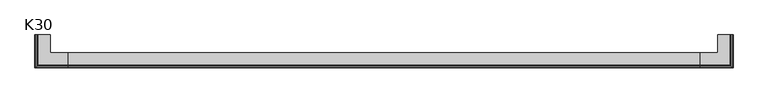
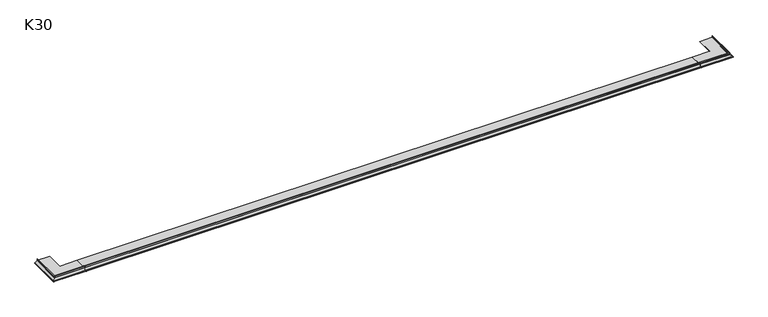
"""IFC4 building model written with IfcOpenShell, lengths in millimetres: proxy geometry, K30 Profil okapowy prosty : K30."""

from ifc_helpers import new_model, si_unit, frame, origin, place, context, project, spatial, polyline, circle_curve, ellipse_curve, source, transform, mapped, element, save
from ifc_brep_helpers import plane_surface, cylinder_surface, revolved_surface, advanced_brep


def k30_aa9466e5(model_context):
    return source(origin(), model_context, "Body", "AdvancedBrep", [
        advanced_brep(
        [(4800.0, 91.6460788, -13.5016844), (4800.0, 91.6460788, -15.1970829), (4800.0, 5.0074458, -15.1970829), (4800.0, 5.0074458, -19.1975491), (4800.0, 4.0074458, -19.1975491), (4800.0, 4.0074458, -15.1975491), (4800.0, -2.7771023, -15.1975491), (4800.0, -16.2971103, -25.3819245), (4800.0, -17.0937577, -26.9794046), (4800.0, -17.0937577, -30.413733), (4800.0, -18.7937577, -30.413733), (4800.0, -18.7937577, -26.6303216), (4800.0, -17.5987866, -24.2341015), (4800.0, -3.2334641, -13.4129661), (4800.0, -2.800002, -12.5354797), (4800.0, -2.800002, -2.7535764), (4800.0, 0.0, 0.0), (4800.0, 0.0, -1.79984), (4800.0, -0.9925542, -2.7625682), (4800.0, -0.9925542, -13.5016844), (4928.3539212, 220.0, -13.5016844), (5020.9925542, 220.0, -13.5016844), (5020.9925542, 220.0, -2.7625682), (5020.0, 220.0, -1.79984), (5020.0, 220.0, 0.0), (5022.7996151, 220.0, -2.7535764), (5022.800002, 220.0, -12.5354797), (5023.2334641, 220.0, -13.4129661), (5037.5987866, 220.0, -24.2341015), (5038.7937577, 220.0, -26.6303216), (5038.7937577, 220.0, -30.413733), (5037.0937577, 220.0, -30.413733), (5037.0937577, 220.0, -26.9794046), (5036.2971103, 220.0, -25.3819245), (5022.7771023, 220.0, -15.1975491), (5015.9925542, 220.0, -15.1975491), (5015.9925542, 220.0, -19.1975491), (5014.9925542, 220.0, -19.1975491), (5014.9925542, 220.0, -15.1970829), (4928.3539212, 220.0, -15.1970829), (5020.9925542, -0.9925542, -13.5016844), (4928.3539212, 91.6460788, -13.5016844), (5020.9925542, -0.9925542, -2.7625682), (5020.0, 0.0, -1.79984), (5020.0, 0.0, 0.0), (5022.800002, -2.7996151, -2.7535764), (5022.800002, -2.800002, -12.5354797), (5023.2334641, -3.2334641, -13.4129661), (5037.5987866, -17.5987866, -24.2341015), (5038.7937577, -18.7937577, -26.6303216), (5038.7937577, -18.7937577, -30.413733), (5037.0937577, -17.0937577, -30.413733), (5037.0937577, -17.0937577, -26.9794046), (5036.2971103, -16.2971103, -25.3819245), (5022.7771023, -2.7771023, -15.1975491), (5015.9925542, 4.0074458, -15.1975491), (5015.9925542, 4.0074458, -19.1975491), (5014.9925542, 5.0074458, -19.1975491), (5014.9925542, 5.0074458, -15.1970829), (4928.3539212, 91.6460788, -15.1970829)],
        [
            (0, 1),
            (1, 2),
            (2, 3),
            (3, 4),
            (4, 5),
            (5, 6),
            (6, 7),
            (7, 8, circle_curve(frame((4800.0, -15.0937577, -26.9794046), z_axis=(1.0, 0.0, 0.0), x_axis=(0.0, -0.6016762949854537, 0.7987400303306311)), 2.0)),
            (8, 9),
            (9, 10, circle_curve(frame((4800.0, -17.9437577, -30.413733), z_axis=(-1.0, 0.0, 0.0), x_axis=(0.0, 1.0, -1.0699937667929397e-12)), 0.85)),
            (10, 11),
            (11, 12, circle_curve(frame((4800.0, -15.7937577, -26.6303216), z_axis=(-1.0, 0.0, 0.0), x_axis=(0.0, -1.0, 0.0)), 3.0)),
            (12, 13),
            (13, 14, circle_curve(frame((4800.0, -3.8882646, -12.5437023), z_axis=(1.0, 0.0, 0.0), x_axis=(0.0, 0.6016762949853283, -0.7987400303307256)), 1.0882937)),
            (14, 15),
            (15, 16, circle_curve(frame((4800.0, -0.0455531, -2.7536853), z_axis=(-1.0, 0.0, 0.0), x_axis=(0.0, -0.9999999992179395, 3.954897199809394e-05)), 2.754062)),
            (16, 17),
            (17, 18, circle_curve(frame((4800.0, -0.0049314, -2.7877721), z_axis=(1.0, 0.0, 0.0), x_axis=(0.0, 0.004991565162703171, 0.9999875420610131)), 0.9879444)),
            (18, 19),
            (19, 0),
            (20, 21),
            (21, 22),
            (22, 23, circle_curve(frame((5020.0049314, 220.0, -2.7877721), z_axis=(0.0, -1.0, 0.0), x_axis=(-0.004991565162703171, 0.0, 0.9999875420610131)), 0.9879444)),
            (23, 24),
            (24, 25, circle_curve(frame((5020.0455531, 220.0, -2.7536853), z_axis=(0.0, 1.0, 0.0), x_axis=(0.9999999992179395, 0.0, 3.954897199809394e-05)), 2.754062)),
            (25, 26),
            (26, 27, circle_curve(frame((5023.8882646, 220.0, -12.5437023), z_axis=(0.0, -1.0, 0.0), x_axis=(-0.6016762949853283, 0.0, -0.7987400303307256)), 1.0882937)),
            (27, 28),
            (28, 29, circle_curve(frame((5035.7937577, 220.0, -26.6303216), z_axis=(0.0, 1.0, 0.0), x_axis=(1.0, 0.0, 0.0)), 3.0)),
            (29, 30),
            (30, 31, circle_curve(frame((5037.9437577, 220.0, -30.413733), z_axis=(0.0, 1.0, 0.0), x_axis=(-1.0, 0.0, -1.0699937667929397e-12)), 0.85)),
            (31, 32),
            (32, 33, circle_curve(frame((5035.0937577, 220.0, -26.9794046), z_axis=(0.0, -1.0, 0.0), x_axis=(0.6016762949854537, 0.0, 0.7987400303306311)), 2.0)),
            (33, 34),
            (34, 35),
            (35, 36),
            (36, 37),
            (37, 38),
            (38, 39),
            (39, 20),
            (19, 40),
            (40, 21),
            (20, 41),
            (41, 0),
            (18, 42),
            (42, 40),
            (17, 43),
            (43, 42, ellipse_curve(frame((5020.0049314, -0.0049314, -2.7877721), z_axis=(0.7071067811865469, 0.7071067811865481, 0.0), x_axis=(0.7071067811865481, -0.7071067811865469, 0.0)), 1.3971644, 0.9879444)),
            (16, 44),
            (44, 43),
            (15, 45),
            (45, 44, ellipse_curve(frame((5020.0455531, -0.0455531, -2.7536853), z_axis=(-0.7071067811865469, -0.7071067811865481, 0.0), x_axis=(-0.7071067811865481, 0.7071067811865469, 0.0)), 3.8948319, 2.754062)),
            (14, 46),
            (46, 45),
            (13, 47),
            (47, 46, ellipse_curve(frame((5023.8882646, -3.8882646, -12.5437023), z_axis=(0.7071067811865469, 0.7071067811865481, 0.0), x_axis=(0.7071067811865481, -0.7071067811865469, 0.0)), 1.5390797, 1.0882937)),
            (12, 48),
            (48, 47),
            (11, 49),
            (49, 48, ellipse_curve(frame((5035.7937577, -15.7937577, -26.6303216), z_axis=(-0.7071067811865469, -0.7071067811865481, 0.0), x_axis=(-0.7071067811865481, 0.7071067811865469, 0.0)), 4.2426407, 3.0)),
            (10, 50),
            (50, 49),
            (9, 51),
            (51, 50, ellipse_curve(frame((5037.9437577, -17.9437577, -30.413733), z_axis=(-0.7071067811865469, -0.7071067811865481, 0.0), x_axis=(-0.7071067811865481, 0.7071067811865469, 0.0)), 1.2020815, 0.85)),
            (8, 52),
            (52, 51),
            (7, 53),
            (53, 52, ellipse_curve(frame((5035.0937577, -15.0937577, -26.9794046), z_axis=(0.7071067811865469, 0.7071067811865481, 0.0), x_axis=(0.7071067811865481, -0.7071067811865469, 0.0)), 2.8284271, 2.0)),
            (6, 54),
            (54, 53),
            (5, 55),
            (55, 35),
            (34, 54),
            (4, 56),
            (56, 55),
            (3, 57),
            (57, 37),
            (36, 56),
            (2, 58),
            (58, 57),
            (1, 59),
            (59, 39),
            (38, 58),
            (41, 59),
            (42, 22),
            (43, 23),
            (44, 24),
            (45, 25),
            (46, 26),
            (47, 27),
            (48, 28),
            (49, 29),
            (50, 30),
            (51, 31),
            (52, 32),
            (53, 33),
        ],
        [
            plane_surface(frame((4800.0, 0.0, 0.0), z_axis=(-1.0, 0.0, 0.0), x_axis=(0.0, 0.0, 1.0))),
            plane_surface(frame((5020.0, 220.0, 0.0), z_axis=(0.0, 1.0, 0.0), x_axis=(0.0, 0.0, 1.0))),
            plane_surface(frame((4800.0, 91.6460788, -13.5016844), z_axis=(0.0, 0.0, 1.0), x_axis=(1.0, 0.0, 0.0))),
            plane_surface(frame((4800.0, -0.9925542, -13.5016844), z_axis=(0.0, 1.0, 0.0), x_axis=(1.0, 0.0, 0.0))),
            revolved_surface(polyline([(5020.992875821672, -1.115027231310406e-08, -1.799840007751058), (4800.0, -1.115027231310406e-08, -1.799840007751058)]), (4800.0, -0.0049314, -2.7877721), (1.0, 0.0, 0.0)),
            plane_surface(frame((4800.0, 0.0, -1.79984), z_axis=(0.0, 1.0, 0.0), x_axis=(1.0, 0.0, 0.0))),
            cylinder_surface(frame((4800.0, -0.0455531, -2.7536853), z_axis=(-1.0000000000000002, 0.0, 0.0), x_axis=(0.0, -0.9999999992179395, 3.954897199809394e-05)), 2.754062),
            plane_surface(frame((4800.0, -2.800002, -2.7535764), z_axis=(0.0, -1.0, 0.0), x_axis=(1.0, 0.0, 0.0))),
            revolved_surface(polyline([(5024.976558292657, -3.2334640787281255, -13.412966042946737), (4800.0, -3.2334640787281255, -13.412966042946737)]), (4800.0, -3.8882646, -12.5437023), (1.0000000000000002, 0.0, 0.0)),
            plane_surface(frame((4800.0, -3.2334641, -13.4129661), z_axis=(0.0, -0.6016762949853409, 0.7987400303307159), x_axis=(1.0, 0.0, 0.0))),
            cylinder_surface(frame((4800.0, -15.7937577, -26.6303216), z_axis=(-1.0, 0.0, 0.0), x_axis=(0.0, -1.0, 0.0)), 3.0),
            plane_surface(frame((4800.0, -18.7937577, -26.6303216), z_axis=(0.0, -1.0, 0.0), x_axis=(1.0, 0.0, 0.0))),
            cylinder_surface(frame((4800.0, -17.9437577, -30.413733), z_axis=(-1.0, 0.0, 0.0), x_axis=(0.0, 1.0, -1.0699937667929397e-12)), 0.85),
            plane_surface(frame((4800.0, -17.0937577, -30.413733), z_axis=(0.0, 1.0, 0.0), x_axis=(1.0, 0.0, 0.0))),
            revolved_surface(polyline([(5037.0937577, -16.297110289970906, -25.381924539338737), (4800.0, -16.297110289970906, -25.381924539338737)]), (4800.0, -15.0937577, -26.9794046), (1.0000000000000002, 0.0, 0.0)),
            plane_surface(frame((4800.0, -16.2971103, -25.3819245), z_axis=(0.0, 0.6016762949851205, -0.798740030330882), x_axis=(1.0, 0.0, 0.0))),
            plane_surface(frame((4800.0, -2.7771023, -15.1975491), z_axis=(0.0, 0.0, -1.0), x_axis=(1.0, 0.0, 0.0))),
            plane_surface(frame((4800.0, 4.0074458, -15.1975491), z_axis=(0.0, -1.0, 0.0), x_axis=(1.0, 0.0, 0.0))),
            plane_surface(frame((4800.0, 4.0074458, -19.1975491), z_axis=(0.0, 0.0, -1.0), x_axis=(1.0, 0.0, 0.0))),
            plane_surface(frame((4800.0, 5.0074458, -19.1975491), z_axis=(0.0, 1.0, 0.0), x_axis=(1.0, 0.0, 0.0))),
            plane_surface(frame((4800.0, 5.0074458, -15.1970829), z_axis=(0.0, 0.0, -1.0), x_axis=(1.0, 0.0, 0.0))),
            plane_surface(frame((4800.0, 91.6460788, -15.1970829), z_axis=(0.0, 1.0, 0.0), x_axis=(1.0, 0.0, 0.0))),
            plane_surface(frame((5020.9925542, -0.9925542, -13.5016844), z_axis=(-1.0, 0.0, 0.0), x_axis=(0.0, 1.0, 0.0))),
            revolved_surface(polyline([(5020.00000001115, 220.0, -1.799840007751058), (5020.00000001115, -0.9928758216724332, -1.799840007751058)]), (5020.0049314, 0.0, -2.7877721), (0.0, 1.0, 0.0)),
            plane_surface(frame((5020.0, 0.0, -1.79984), z_axis=(-1.0, 0.0, 0.0), x_axis=(0.0, 1.0, 0.0))),
            cylinder_surface(frame((5020.0455531, 0.0, -2.7536853), z_axis=(0.0, -1.0000000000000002, 0.0), x_axis=(0.9999999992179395, 0.0, 3.954897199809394e-05)), 2.754062),
            plane_surface(frame((5022.800002, -2.800002, -2.7535764), z_axis=(1.0, 0.0, 0.0), x_axis=(0.0, 1.0, 0.0))),
            revolved_surface(polyline([(5023.2334640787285, 220.0000000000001, -13.412966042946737), (5023.2334640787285, -4.976558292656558, -13.412966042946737)]), (5023.8882646, 0.0, -12.5437023), (0.0, 1.0000000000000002, 0.0)),
            plane_surface(frame((5023.2334641, -3.2334641, -13.4129661), z_axis=(0.6016762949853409, 0.0, 0.7987400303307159), x_axis=(0.0, 1.0, 0.0))),
            cylinder_surface(frame((5035.7937577, 0.0, -26.6303216), z_axis=(0.0, -1.0, 0.0), x_axis=(1.0, 0.0, 0.0)), 3.0),
            plane_surface(frame((5038.7937577, -18.7937577, -26.6303216), z_axis=(1.0, 0.0, 0.0), x_axis=(0.0, 1.0, 0.0))),
            cylinder_surface(frame((5037.9437577, 0.0, -30.413733), z_axis=(0.0, -1.0, 0.0), x_axis=(-1.0, 0.0, -1.0699937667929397e-12)), 0.85),
            plane_surface(frame((5037.0937577, -17.0937577, -30.413733), z_axis=(-1.0, 0.0, 0.0), x_axis=(0.0, 1.0, 0.0))),
            revolved_surface(polyline([(5036.297110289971, 220.0000000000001, -25.381924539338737), (5036.297110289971, -17.09375770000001, -25.381924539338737)]), (5035.0937577, 0.0, -26.9794046), (0.0, 1.0000000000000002, 0.0)),
            plane_surface(frame((5036.2971103, -16.2971103, -25.3819245), z_axis=(-0.6016762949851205, 0.0, -0.798740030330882), x_axis=(0.0, 1.0, 0.0))),
            plane_surface(frame((5015.9925542, 4.0074458, -15.1975491), z_axis=(1.0, 0.0, 0.0), x_axis=(0.0, 1.0, 0.0))),
            plane_surface(frame((5014.9925542, 5.0074458, -19.1975491), z_axis=(-1.0, 0.0, 0.0), x_axis=(0.0, 1.0, 0.0))),
            plane_surface(frame((4928.3539212, 91.6460788, -15.1970829), z_axis=(-1.0, 0.0, 0.0), x_axis=(0.0, 1.0, 0.0))),
        ],
        [
            (0, [[1, 2, 3, 4, 5, 6, 7, 8, 9, 10, 11, 12, 13, 14, 15, 16, 17, 18, 19, 20]]),
            (1, [[21, 22, 23, 24, 25, 26, 27, 28, 29, 30, 31, 32, 33, 34, 35, 36, 37, 38, 39, 40]]),
            (2, [[41, 42, -21, 43, 44, -20]]),
            (3, [[45, 46, -41, -19]]),
            (4, [[47, 48, -45, -18]]),
            (5, [[49, 50, -47, -17]]),
            (6, [[51, 52, -49, -16]]),
            (7, [[53, 54, -51, -15]]),
            (8, [[55, 56, -53, -14]]),
            (9, [[57, 58, -55, -13]]),
            (10, [[59, 60, -57, -12]]),
            (11, [[61, 62, -59, -11]]),
            (12, [[63, 64, -61, -10]]),
            (13, [[65, 66, -63, -9]]),
            (14, [[67, 68, -65, -8]]),
            (15, [[69, 70, -67, -7]]),
            (16, [[71, 72, -35, 73, -69, -6]]),
            (17, [[74, 75, -71, -5]]),
            (18, [[76, 77, -37, 78, -74, -4]]),
            (19, [[79, 80, -76, -3]]),
            (20, [[81, 82, -39, 83, -79, -2]]),
            (21, [[-44, 84, -81, -1]]),
            (22, [[85, -22, -42, -46]]),
            (23, [[86, -23, -85, -48]]),
            (24, [[87, -24, -86, -50]]),
            (25, [[88, -25, -87, -52]]),
            (26, [[89, -26, -88, -54]]),
            (27, [[90, -27, -89, -56]]),
            (28, [[91, -28, -90, -58]]),
            (29, [[92, -29, -91, -60]]),
            (30, [[93, -30, -92, -62]]),
            (31, [[94, -31, -93, -64]]),
            (32, [[95, -32, -94, -66]]),
            (33, [[96, -33, -95, -68]]),
            (34, [[-73, -34, -96, -70]]),
            (35, [[-78, -36, -72, -75]]),
            (36, [[-83, -38, -77, -80]]),
            (37, [[-43, -40, -82, -84]]),
        ],
    ),
        advanced_brep(
        [(220.0, 91.6460788, -13.5016844), (220.0, -0.9925542, -13.5016844), (220.0, -0.9925542, -2.7625682), (220.0, 0.0, -1.79984), (220.0, 0.0, 0.0), (220.0, -2.7996151, -2.7535764), (220.0, -2.800002, -12.5354797), (220.0, -3.2334641, -13.4129661), (220.0, -17.5987866, -24.2341015), (220.0, -18.7937577, -26.6303216), (220.0, -18.7937577, -30.413733), (220.0, -17.0937577, -30.413733), (220.0, -17.0937577, -26.9794046), (220.0, -16.2971103, -25.3819245), (220.0, -2.7771023, -15.1975491), (220.0, 4.0074458, -15.1975491), (220.0, 4.0074458, -19.1975491), (220.0, 5.0074458, -19.1975491), (220.0, 5.0074458, -15.1970829), (220.0, 91.6460788, -15.1970829), (91.6460788, 220.0, -13.5016844), (91.6460788, 220.0, -15.1970829), (5.0074458, 220.0, -15.1970829), (5.0074458, 220.0, -19.1975491), (4.0074458, 220.0, -19.1975491), (4.0074458, 220.0, -15.1975491), (-2.7771023, 220.0, -15.1975491), (-16.2971103, 220.0, -25.3819245), (-17.0937577, 220.0, -26.9794046), (-17.0937577, 220.0, -30.413733), (-18.7937577, 220.0, -30.413733), (-18.7937577, 220.0, -26.6303216), (-17.5987866, 220.0, -24.2341015), (-3.2334641, 220.0, -13.4129661), (-2.800002, 220.0, -12.5354797), (-2.800002, 220.0, -2.7535764), (0.0, 220.0, 0.0), (0.0, 220.0, -1.79984), (-0.9925542, 220.0, -2.7625682), (-0.9925542, 220.0, -13.5016844), (91.6460788, 91.6460788, -13.5016844), (-0.9925542, -0.9925542, -13.5016844), (-0.9925542, -0.9925542, -2.7625682), (0.0, 0.0, -1.79984), (0.0, 0.0, 0.0), (-2.7996151, -2.7996151, -2.7535764), (-2.800002, -2.800002, -12.5354797), (-3.2334641, -3.2334641, -13.4129661), (-17.5987866, -17.5987866, -24.2341015), (-18.7937577, -18.7937577, -26.6303216), (-18.7937577, -18.7937577, -30.413733), (-17.0937577, -17.0937577, -30.413733), (-17.0937577, -17.0937577, -26.9794046), (-16.2971103, -16.2971103, -25.3819245), (-2.7771023, -2.7771023, -15.1975491), (4.0074458, 4.0074458, -15.1975491), (4.0074458, 4.0074458, -19.1975491), (5.0074458, 5.0074458, -19.1975491), (5.0074458, 5.0074458, -15.1970829), (91.6460788, 91.6460788, -15.1970829)],
        [
            (0, 1),
            (1, 2),
            (2, 3, circle_curve(frame((220.0, -0.0049314, -2.7877721), z_axis=(-1.0, 0.0, 0.0), x_axis=(0.0, 0.004991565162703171, 0.9999875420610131)), 0.9879444)),
            (3, 4),
            (4, 5, circle_curve(frame((220.0, -0.0455531, -2.7536853), z_axis=(1.0, 0.0, 0.0), x_axis=(0.0, -0.9999999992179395, 3.954897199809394e-05)), 2.754062)),
            (5, 6),
            (6, 7, circle_curve(frame((220.0, -3.8882646, -12.5437023), z_axis=(-1.0, 0.0, 0.0), x_axis=(0.0, 0.6016762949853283, -0.7987400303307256)), 1.0882937)),
            (7, 8),
            (8, 9, circle_curve(frame((220.0, -15.7937577, -26.6303216), z_axis=(1.0, 0.0, 0.0), x_axis=(0.0, -1.0, 0.0)), 3.0)),
            (9, 10),
            (10, 11, circle_curve(frame((220.0, -17.9437577, -30.413733), z_axis=(1.0, 0.0, 0.0), x_axis=(0.0, 1.0, -1.0699937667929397e-12)), 0.85)),
            (11, 12),
            (12, 13, circle_curve(frame((220.0, -15.0937577, -26.9794046), z_axis=(-1.0, 0.0, 0.0), x_axis=(0.0, -0.6016762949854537, 0.7987400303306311)), 2.0)),
            (13, 14),
            (14, 15),
            (15, 16),
            (16, 17),
            (17, 18),
            (18, 19),
            (19, 0),
            (20, 21),
            (21, 22),
            (22, 23),
            (23, 24),
            (24, 25),
            (25, 26),
            (26, 27),
            (27, 28, circle_curve(frame((-15.0937577, 220.0, -26.9794046), z_axis=(0.0, -1.0, 0.0), x_axis=(-0.6016762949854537, 0.0, 0.7987400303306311)), 2.0)),
            (28, 29),
            (29, 30, circle_curve(frame((-17.9437577, 220.0, -30.413733), z_axis=(0.0, 1.0, 0.0), x_axis=(1.0, 0.0, -1.0699937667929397e-12)), 0.85)),
            (30, 31),
            (31, 32, circle_curve(frame((-15.7937577, 220.0, -26.6303216), z_axis=(0.0, 1.0, 0.0), x_axis=(-1.0, 0.0, 0.0)), 3.0)),
            (32, 33),
            (33, 34, circle_curve(frame((-3.8882646, 220.0, -12.5437023), z_axis=(0.0, -1.0, 0.0), x_axis=(0.6016762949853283, 0.0, -0.7987400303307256)), 1.0882937)),
            (34, 35),
            (35, 36, circle_curve(frame((-0.0455531, 220.0, -2.7536853), z_axis=(0.0, 1.0, 0.0), x_axis=(-0.9999999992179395, 0.0, 3.954897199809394e-05)), 2.754062)),
            (36, 37),
            (37, 38, circle_curve(frame((-0.0049314, 220.0, -2.7877721), z_axis=(0.0, -1.0, 0.0), x_axis=(0.004991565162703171, 0.0, 0.9999875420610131)), 0.9879444)),
            (38, 39),
            (39, 20),
            (0, 40),
            (40, 20),
            (39, 41),
            (41, 1),
            (41, 42),
            (42, 2),
            (42, 43, ellipse_curve(frame((-0.0049314, -0.0049314, -2.7877721), z_axis=(-0.7071067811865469, 0.7071067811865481, 0.0), x_axis=(-0.7071067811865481, -0.7071067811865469, 0.0)), 1.3971644, 0.9879444)),
            (43, 3),
            (43, 44),
            (44, 4),
            (44, 45, ellipse_curve(frame((-0.0455531, -0.0455531, -2.7536853), z_axis=(0.7071067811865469, -0.7071067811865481, 0.0), x_axis=(0.7071067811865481, 0.7071067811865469, 0.0)), 3.8948319, 2.754062)),
            (45, 5),
            (45, 46),
            (46, 6),
            (46, 47, ellipse_curve(frame((-3.8882646, -3.8882646, -12.5437023), z_axis=(-0.7071067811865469, 0.7071067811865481, 0.0), x_axis=(-0.7071067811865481, -0.7071067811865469, 0.0)), 1.5390797, 1.0882937)),
            (47, 7),
            (47, 48),
            (48, 8),
            (48, 49, ellipse_curve(frame((-15.7937577, -15.7937577, -26.6303216), z_axis=(0.7071067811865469, -0.7071067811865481, 0.0), x_axis=(0.7071067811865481, 0.7071067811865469, 0.0)), 4.2426407, 3.0)),
            (49, 9),
            (49, 50),
            (50, 10),
            (50, 51, ellipse_curve(frame((-17.9437577, -17.9437577, -30.413733), z_axis=(0.7071067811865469, -0.7071067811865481, 0.0), x_axis=(0.7071067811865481, 0.7071067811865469, 0.0)), 1.2020815, 0.85)),
            (51, 11),
            (51, 52),
            (52, 12),
            (52, 53, ellipse_curve(frame((-15.0937577, -15.0937577, -26.9794046), z_axis=(-0.7071067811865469, 0.7071067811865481, 0.0), x_axis=(-0.7071067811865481, -0.7071067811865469, 0.0)), 2.8284271, 2.0)),
            (53, 13),
            (53, 54),
            (54, 14),
            (54, 26),
            (25, 55),
            (55, 15),
            (55, 56),
            (56, 16),
            (56, 24),
            (23, 57),
            (57, 17),
            (57, 58),
            (58, 18),
            (58, 22),
            (21, 59),
            (59, 19),
            (59, 40),
            (38, 42),
            (37, 43),
            (36, 44),
            (35, 45),
            (34, 46),
            (33, 47),
            (32, 48),
            (31, 49),
            (30, 50),
            (29, 51),
            (28, 52),
            (27, 53),
        ],
        [
            plane_surface(frame((220.0, 0.0, 0.0), z_axis=(1.0, 0.0, 0.0), x_axis=(0.0, 0.0, 1.0))),
            plane_surface(frame((0.0, 220.0, 0.0), z_axis=(0.0, 1.0, 0.0), x_axis=(0.0, 0.0, 1.0))),
            plane_surface(frame((220.0, 91.6460788, -13.5016844), z_axis=(0.0, 0.0, 1.0), x_axis=(-1.0, 0.0, 0.0))),
            plane_surface(frame((220.0, -0.9925542, -13.5016844), z_axis=(0.0, 1.0, 0.0), x_axis=(-1.0, 0.0, 0.0))),
            revolved_surface(polyline([(-0.9928758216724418, -1.115027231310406e-08, -1.799840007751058), (220.0, -1.115027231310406e-08, -1.799840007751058)]), (220.0, -0.0049314, -2.7877721), (-1.0, 0.0, 0.0)),
            plane_surface(frame((220.0, 0.0, -1.79984), z_axis=(0.0, 1.0, 0.0), x_axis=(-1.0, 0.0, 0.0))),
            cylinder_surface(frame((220.0, -0.0455531, -2.7536853), z_axis=(1.0000000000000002, 0.0, 0.0), x_axis=(0.0, -0.9999999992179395, 3.954897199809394e-05)), 2.754062),
            plane_surface(frame((220.0, -2.800002, -2.7535764), z_axis=(0.0, -1.0, 0.0), x_axis=(-1.0, 0.0, 0.0))),
            revolved_surface(polyline([(-4.9765582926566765, -3.2334640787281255, -13.412966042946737), (220.0, -3.2334640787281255, -13.412966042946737)]), (220.0, -3.8882646, -12.5437023), (-1.0000000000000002, 0.0, 0.0)),
            plane_surface(frame((220.0, -3.2334641, -13.4129661), z_axis=(0.0, -0.6016762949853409, 0.7987400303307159), x_axis=(-1.0, 0.0, 0.0))),
            cylinder_surface(frame((220.0, -15.7937577, -26.6303216), z_axis=(1.0, 0.0, 0.0), x_axis=(0.0, -1.0, 0.0)), 3.0),
            plane_surface(frame((220.0, -18.7937577, -26.6303216), z_axis=(0.0, -1.0, 0.0), x_axis=(-1.0, 0.0, 0.0))),
            cylinder_surface(frame((220.0, -17.9437577, -30.413733), z_axis=(1.0, 0.0, 0.0), x_axis=(0.0, 1.0, -1.0699937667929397e-12)), 0.85),
            plane_surface(frame((220.0, -17.0937577, -30.413733), z_axis=(0.0, 1.0, 0.0), x_axis=(-1.0, 0.0, 0.0))),
            revolved_surface(polyline([(-17.09375770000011, -16.297110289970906, -25.381924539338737), (220.0, -16.297110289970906, -25.381924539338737)]), (220.0, -15.0937577, -26.9794046), (-1.0000000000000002, 0.0, 0.0)),
            plane_surface(frame((220.0, -16.2971103, -25.3819245), z_axis=(0.0, 0.6016762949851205, -0.798740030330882), x_axis=(-1.0, 0.0, 0.0))),
            plane_surface(frame((220.0, -2.7771023, -15.1975491), z_axis=(0.0, 0.0, -1.0), x_axis=(-1.0, 0.0, 0.0))),
            plane_surface(frame((220.0, 4.0074458, -15.1975491), z_axis=(0.0, -1.0, 0.0), x_axis=(-1.0, 0.0, 0.0))),
            plane_surface(frame((220.0, 4.0074458, -19.1975491), z_axis=(0.0, 0.0, -1.0), x_axis=(-1.0, 0.0, 0.0))),
            plane_surface(frame((220.0, 5.0074458, -19.1975491), z_axis=(0.0, 1.0, 0.0), x_axis=(-1.0, 0.0, 0.0))),
            plane_surface(frame((220.0, 5.0074458, -15.1970829), z_axis=(0.0, 0.0, -1.0), x_axis=(-1.0, 0.0, 0.0))),
            plane_surface(frame((220.0, 91.6460788, -15.1970829), z_axis=(0.0, 1.0, 0.0), x_axis=(-1.0, 0.0, 0.0))),
            plane_surface(frame((-0.9925542, -0.9925542, -13.5016844), z_axis=(1.0, 0.0, 0.0), x_axis=(0.0, 1.0, 0.0))),
            revolved_surface(polyline([(-1.115027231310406e-08, 220.0, -1.799840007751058), (-1.115027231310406e-08, -0.9928758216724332, -1.799840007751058)]), (-0.0049314, 0.0, -2.7877721), (0.0, 1.0, 0.0)),
            plane_surface(frame((0.0, 0.0, -1.79984), z_axis=(1.0, 0.0, 0.0), x_axis=(0.0, 1.0, 0.0))),
            cylinder_surface(frame((-0.0455531, 0.0, -2.7536853), z_axis=(0.0, -1.0000000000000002, 0.0), x_axis=(-0.9999999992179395, 0.0, 3.954897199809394e-05)), 2.754062),
            plane_surface(frame((-2.800002, -2.800002, -2.7535764), z_axis=(-1.0, 0.0, 0.0), x_axis=(0.0, 1.0, 0.0))),
            revolved_surface(polyline([(-3.2334640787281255, 220.0000000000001, -13.412966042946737), (-3.2334640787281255, -4.976558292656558, -13.412966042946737)]), (-3.8882646, 0.0, -12.5437023), (0.0, 1.0000000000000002, 0.0)),
            plane_surface(frame((-3.2334641, -3.2334641, -13.4129661), z_axis=(-0.6016762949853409, 0.0, 0.7987400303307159), x_axis=(0.0, 1.0, 0.0))),
            cylinder_surface(frame((-15.7937577, 0.0, -26.6303216), z_axis=(0.0, -1.0, 0.0), x_axis=(-1.0, 0.0, 0.0)), 3.0),
            plane_surface(frame((-18.7937577, -18.7937577, -26.6303216), z_axis=(-1.0, 0.0, 0.0), x_axis=(0.0, 1.0, 0.0))),
            cylinder_surface(frame((-17.9437577, 0.0, -30.413733), z_axis=(0.0, -1.0, 0.0), x_axis=(1.0, 0.0, -1.0699937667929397e-12)), 0.85),
            plane_surface(frame((-17.0937577, -17.0937577, -30.413733), z_axis=(1.0, 0.0, 0.0), x_axis=(0.0, 1.0, 0.0))),
            revolved_surface(polyline([(-16.297110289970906, 220.0000000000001, -25.381924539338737), (-16.297110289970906, -17.09375770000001, -25.381924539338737)]), (-15.0937577, 0.0, -26.9794046), (0.0, 1.0000000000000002, 0.0)),
            plane_surface(frame((-16.2971103, -16.2971103, -25.3819245), z_axis=(0.6016762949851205, 0.0, -0.798740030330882), x_axis=(0.0, 1.0, 0.0))),
            plane_surface(frame((4.0074458, 4.0074458, -15.1975491), z_axis=(-1.0, 0.0, 0.0), x_axis=(0.0, 1.0, 0.0))),
            plane_surface(frame((5.0074458, 5.0074458, -19.1975491), z_axis=(1.0, 0.0, 0.0), x_axis=(0.0, 1.0, 0.0))),
            plane_surface(frame((91.6460788, 91.6460788, -15.1970829), z_axis=(1.0, 0.0, 0.0), x_axis=(0.0, 1.0, 0.0))),
        ],
        [
            (0, [[1, 2, 3, 4, 5, 6, 7, 8, 9, 10, 11, 12, 13, 14, 15, 16, 17, 18, 19, 20]]),
            (1, [[21, 22, 23, 24, 25, 26, 27, 28, 29, 30, 31, 32, 33, 34, 35, 36, 37, 38, 39, 40]]),
            (2, [[-1, 41, 42, -40, 43, 44]]),
            (3, [[-2, -44, 45, 46]]),
            (4, [[-3, -46, 47, 48]]),
            (5, [[-4, -48, 49, 50]]),
            (6, [[-5, -50, 51, 52]]),
            (7, [[-6, -52, 53, 54]]),
            (8, [[-7, -54, 55, 56]]),
            (9, [[-8, -56, 57, 58]]),
            (10, [[-9, -58, 59, 60]]),
            (11, [[-10, -60, 61, 62]]),
            (12, [[-11, -62, 63, 64]]),
            (13, [[-12, -64, 65, 66]]),
            (14, [[-13, -66, 67, 68]]),
            (15, [[-14, -68, 69, 70]]),
            (16, [[-15, -70, 71, -26, 72, 73]]),
            (17, [[-16, -73, 74, 75]]),
            (18, [[-17, -75, 76, -24, 77, 78]]),
            (19, [[-18, -78, 79, 80]]),
            (20, [[-19, -80, 81, -22, 82, 83]]),
            (21, [[-20, -83, 84, -41]]),
            (22, [[-45, -43, -39, 85]]),
            (23, [[-47, -85, -38, 86]]),
            (24, [[-49, -86, -37, 87]]),
            (25, [[-51, -87, -36, 88]]),
            (26, [[-53, -88, -35, 89]]),
            (27, [[-55, -89, -34, 90]]),
            (28, [[-57, -90, -33, 91]]),
            (29, [[-59, -91, -32, 92]]),
            (30, [[-61, -92, -31, 93]]),
            (31, [[-63, -93, -30, 94]]),
            (32, [[-65, -94, -29, 95]]),
            (33, [[-67, -95, -28, 96]]),
            (34, [[-69, -96, -27, -71]]),
            (35, [[-74, -72, -25, -76]]),
            (36, [[-79, -77, -23, -81]]),
            (37, [[-84, -82, -21, -42]]),
        ],
    ),
        advanced_brep(
        [(220.0, 91.6460788, -13.5016844), (220.0, 91.6460788, -15.1970829), (220.0, 5.0074458, -15.1970829), (220.0, 5.0074458, -19.1975491), (220.0, 4.0074458, -19.1975491), (220.0, 4.0074458, -15.1975491), (220.0, -2.7771023, -15.1975491), (220.0, -16.2971103, -25.3819245), (220.0, -17.0937577, -26.9794046), (220.0, -17.0937577, -30.413733), (220.0, -18.7937577, -30.413733), (220.0, -18.7937577, -26.6303216), (220.0, -17.5987866, -24.2341015), (220.0, -3.2334641, -13.4129661), (220.0, -2.800002, -12.5354797), (220.0, -2.800002, -2.7535764), (220.0, 0.0, 0.0), (220.0, 0.0, -1.79984), (220.0, -0.9925542, -2.7625682), (220.0, -0.9925542, -13.5016844), (4800.0, 91.6460788, -13.5016844), (4800.0, -0.9925542, -13.5016844), (4800.0, -0.9925542, -2.7625682), (4800.0, 0.0, -1.79984), (4800.0, 0.0, 0.0), (4800.0, -2.7996151, -2.7535764), (4800.0, -2.800002, -12.5354797), (4800.0, -3.2334641, -13.4129661), (4800.0, -17.5987866, -24.2341015), (4800.0, -18.7937577, -26.6303216), (4800.0, -18.7937577, -30.413733), (4800.0, -17.0937577, -30.413733), (4800.0, -17.0937577, -26.9794046), (4800.0, -16.2971103, -25.3819245), (4800.0, -2.7771023, -15.1975491), (4800.0, 4.0074458, -15.1975491), (4800.0, 4.0074458, -19.1975491), (4800.0, 5.0074458, -19.1975491), (4800.0, 5.0074458, -15.1970829), (4800.0, 91.6460788, -15.1970829)],
        [
            (0, 1),
            (1, 2),
            (2, 3),
            (3, 4),
            (4, 5),
            (5, 6),
            (6, 7),
            (7, 8, circle_curve(frame((220.0, -15.0937577, -26.9794046), z_axis=(1.0, 0.0, 0.0), x_axis=(0.0, -0.6016762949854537, 0.7987400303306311)), 2.0)),
            (8, 9),
            (9, 10, circle_curve(frame((220.0, -17.9437577, -30.413733), z_axis=(-1.0, 0.0, 0.0), x_axis=(0.0, 1.0, -1.0699937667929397e-12)), 0.85)),
            (10, 11),
            (11, 12, circle_curve(frame((220.0, -15.7937577, -26.6303216), z_axis=(-1.0, 0.0, 0.0), x_axis=(0.0, -1.0, 0.0)), 3.0)),
            (12, 13),
            (13, 14, circle_curve(frame((220.0, -3.8882646, -12.5437023), z_axis=(1.0, 0.0, 0.0), x_axis=(0.0, 0.6016762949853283, -0.7987400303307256)), 1.0882937)),
            (14, 15),
            (15, 16, circle_curve(frame((220.0, -0.0455531, -2.7536853), z_axis=(-1.0, 0.0, 0.0), x_axis=(0.0, -0.9999999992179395, 3.954897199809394e-05)), 2.754062)),
            (16, 17),
            (17, 18, circle_curve(frame((220.0, -0.0049314, -2.7877721), z_axis=(1.0, 0.0, 0.0), x_axis=(0.0, 0.004991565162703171, 0.9999875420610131)), 0.9879444)),
            (18, 19),
            (19, 0),
            (20, 21),
            (21, 22),
            (22, 23, circle_curve(frame((4800.0, -0.0049314, -2.7877721), z_axis=(-1.0, 0.0, 0.0), x_axis=(0.0, 0.004991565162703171, 0.9999875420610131)), 0.9879444)),
            (23, 24),
            (24, 25, circle_curve(frame((4800.0, -0.0455531, -2.7536853), z_axis=(1.0, 0.0, 0.0), x_axis=(0.0, -0.9999999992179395, 3.954897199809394e-05)), 2.754062)),
            (25, 26),
            (26, 27, circle_curve(frame((4800.0, -3.8882646, -12.5437023), z_axis=(-1.0, 0.0, 0.0), x_axis=(0.0, 0.6016762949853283, -0.7987400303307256)), 1.0882937)),
            (27, 28),
            (28, 29, circle_curve(frame((4800.0, -15.7937577, -26.6303216), z_axis=(1.0, 0.0, 0.0), x_axis=(0.0, -1.0, 0.0)), 3.0)),
            (29, 30),
            (30, 31, circle_curve(frame((4800.0, -17.9437577, -30.413733), z_axis=(1.0, 0.0, 0.0), x_axis=(0.0, 1.0, -1.0699937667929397e-12)), 0.85)),
            (31, 32),
            (32, 33, circle_curve(frame((4800.0, -15.0937577, -26.9794046), z_axis=(-1.0, 0.0, 0.0), x_axis=(0.0, -0.6016762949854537, 0.7987400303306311)), 2.0)),
            (33, 34),
            (34, 35),
            (35, 36),
            (36, 37),
            (37, 38),
            (38, 39),
            (39, 20),
            (19, 21),
            (20, 0),
            (39, 1),
            (38, 2),
            (37, 3),
            (36, 4),
            (35, 5),
            (34, 6),
            (33, 7),
            (32, 8),
            (31, 9),
            (30, 10),
            (29, 11),
            (28, 12),
            (27, 13),
            (26, 14),
            (25, 15),
            (24, 16),
            (23, 17),
            (22, 18),
        ],
        [
            plane_surface(frame((220.0, 0.0, 0.0), z_axis=(-1.0, 0.0, 0.0), x_axis=(0.0, 0.0, 1.0))),
            plane_surface(frame((4800.0, 0.0, 0.0), z_axis=(1.0, 0.0, 0.0), x_axis=(0.0, 0.0, 1.0))),
            plane_surface(frame((220.0, -0.9925542, -13.5016844), z_axis=(0.0, 0.0, 1.0), x_axis=(1.0, 0.0, 0.0))),
            plane_surface(frame((220.0, 91.6460788, -13.5016844), z_axis=(0.0, 1.0, 0.0), x_axis=(1.0, 0.0, 0.0))),
            plane_surface(frame((220.0, 91.6460788, -15.1970829), z_axis=(0.0, 0.0, -1.0), x_axis=(1.0, 0.0, 0.0))),
            plane_surface(frame((220.0, 5.0074458, -15.1970829), z_axis=(0.0, 1.0, 0.0), x_axis=(1.0, 0.0, 0.0))),
            plane_surface(frame((220.0, 5.0074458, -19.1975491), z_axis=(0.0, 0.0, -1.0), x_axis=(1.0, 0.0, 0.0))),
            plane_surface(frame((220.0, 4.0074458, -19.1975491), z_axis=(0.0, -1.0, 0.0), x_axis=(1.0, 0.0, 0.0))),
            plane_surface(frame((220.0, 4.0074458, -15.1975491), z_axis=(0.0, 0.0, -1.0), x_axis=(1.0, 0.0, 0.0))),
            plane_surface(frame((220.0, -2.7771023, -15.1975491), z_axis=(0.0, 0.6016762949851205, -0.798740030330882), x_axis=(1.0, 0.0, 0.0))),
            revolved_surface(polyline([(4800.000000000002, -16.297110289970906, -25.381924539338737), (220.0, -16.297110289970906, -25.381924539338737)]), (220.0, -15.0937577, -26.9794046), (1.0000000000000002, 0.0, 0.0)),
            plane_surface(frame((220.0, -17.0937577, -26.9794046), z_axis=(0.0, 1.0, 0.0), x_axis=(1.0, 0.0, 0.0))),
            cylinder_surface(frame((220.0, -17.9437577, -30.413733), z_axis=(-1.0, 0.0, 0.0), x_axis=(0.0, 1.0, -1.0699937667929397e-12)), 0.85),
            plane_surface(frame((220.0, -18.7937577, -30.413733), z_axis=(0.0, -1.0, 0.0), x_axis=(1.0, 0.0, 0.0))),
            cylinder_surface(frame((220.0, -15.7937577, -26.6303216), z_axis=(-1.0, 0.0, 0.0), x_axis=(0.0, -1.0, 0.0)), 3.0),
            plane_surface(frame((220.0, -17.5987866, -24.2341015), z_axis=(0.0, -0.6016762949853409, 0.7987400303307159), x_axis=(1.0, 0.0, 0.0))),
            revolved_surface(polyline([(4800.000000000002, -3.2334640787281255, -13.412966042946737), (220.0, -3.2334640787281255, -13.412966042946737)]), (220.0, -3.8882646, -12.5437023), (1.0000000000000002, 0.0, 0.0)),
            plane_surface(frame((220.0, -2.800002, -12.5354797), z_axis=(0.0, -1.0, 0.0), x_axis=(1.0, 0.0, 0.0))),
            cylinder_surface(frame((220.0, -0.0455531, -2.7536853), z_axis=(-1.0000000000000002, 0.0, 0.0), x_axis=(0.0, -0.9999999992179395, 3.954897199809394e-05)), 2.754062),
            plane_surface(frame((220.0, 0.0, 0.0), z_axis=(0.0, 1.0, 0.0), x_axis=(1.0, 0.0, 0.0))),
            revolved_surface(polyline([(4800.0, -1.115027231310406e-08, -1.799840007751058), (220.0, -1.115027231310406e-08, -1.799840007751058)]), (220.0, -0.0049314, -2.7877721), (1.0, 0.0, 0.0)),
            plane_surface(frame((220.0, -0.9925542, -2.7625682), z_axis=(0.0, 1.0, 0.0), x_axis=(1.0, 0.0, 0.0))),
        ],
        [
            (0, [[1, 2, 3, 4, 5, 6, 7, 8, 9, 10, 11, 12, 13, 14, 15, 16, 17, 18, 19, 20]]),
            (1, [[21, 22, 23, 24, 25, 26, 27, 28, 29, 30, 31, 32, 33, 34, 35, 36, 37, 38, 39, 40]]),
            (2, [[-20, 41, -21, 42]]),
            (3, [[-1, -42, -40, 43]]),
            (4, [[-2, -43, -39, 44]]),
            (5, [[-3, -44, -38, 45]]),
            (6, [[-4, -45, -37, 46]]),
            (7, [[-5, -46, -36, 47]]),
            (8, [[-6, -47, -35, 48]]),
            (9, [[-7, -48, -34, 49]]),
            (10, [[-8, -49, -33, 50]]),
            (11, [[-9, -50, -32, 51]]),
            (12, [[-10, -51, -31, 52]]),
            (13, [[-11, -52, -30, 53]]),
            (14, [[-12, -53, -29, 54]]),
            (15, [[-13, -54, -28, 55]]),
            (16, [[-14, -55, -27, 56]]),
            (17, [[-15, -56, -26, 57]]),
            (18, [[-16, -57, -25, 58]]),
            (19, [[-17, -58, -24, 59]]),
            (20, [[-18, -59, -23, 60]]),
            (21, [[-19, -60, -22, -41]]),
        ],
    ),
    ])


if __name__ == "__main__":
    model = new_model("IFC4")
    model_context = context("Model", 3, world=origin())
    ifc_project = project(units=[si_unit("LENGTHUNIT", "METRE", prefix="MILLI")], contexts=[model_context])
    site = spatial("IfcSite", under=ifc_project)
    building = spatial("IfcBuilding", under=site)
    placement = place(None, origin())
    k30_shape = k30_aa9466e5(model_context)
    element("IfcBuildingElementProxy", 1, Name="K30 Profil okapowy prosty : K30", ObjectType="K30 Profil okapowy prosty : K30", at=placement, inside=building, context=model_context, shape_type="MappedRepresentation", body=[
        mapped(k30_shape, transform((0.0, 0.0, 0.0), x_axis=(1.0, 0.0, 0.0), y_axis=(0.0, 1.0, 0.0), z_axis=(0.0, 0.0, 1.0))),
    ])
    save(model, "model.ifc")
